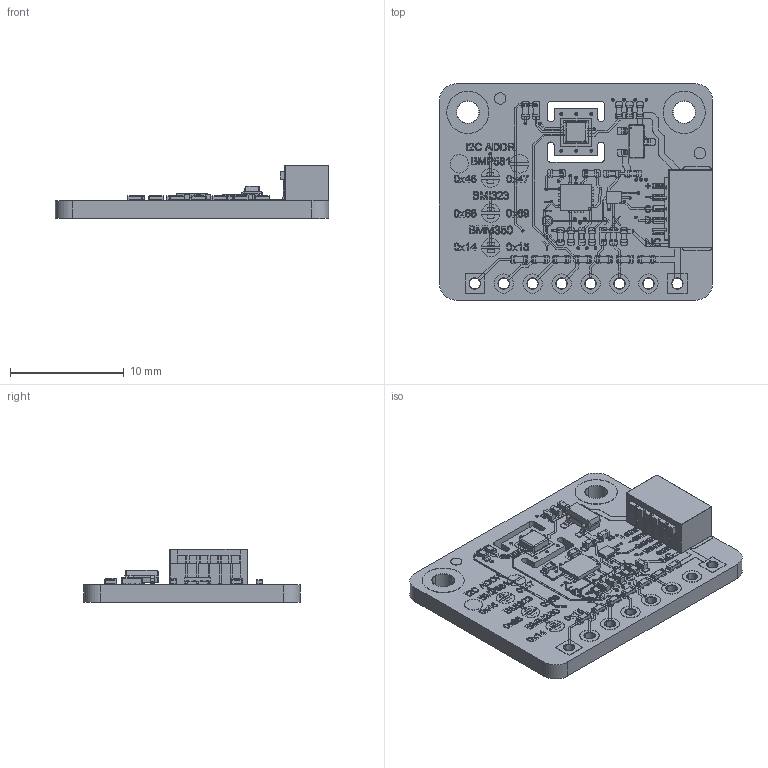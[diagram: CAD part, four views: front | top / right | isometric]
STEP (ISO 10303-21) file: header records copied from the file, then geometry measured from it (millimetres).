
FILE_DESCRIPTION(/* description */ (''),/* implementation_level */ '2;1');
FILE_NAME(/* name */ 'SEN0697',/* time_stamp */ '2026-03-20T13:50:01+08:00',/* author */ (''),/* organization */ (''),/* preprocessor_version */ 'ST-DEVELOPER v19.2',/* originating_system */ 'Rhino 8.0',/* authorisation */ '');
FILE_SCHEMA (('CONFIG_CONTROL_DESIGN'));
Products named in the file (1): Document
Bounding box: 24 x 19 x 4.74 mm (x, y, z)
Volume: 679.7 mm3; surface area: 1978.4 mm2
Topology: 428 solids, 429 shells, 5056 faces, 12355 edges, 8181 vertices
Faces by surface type: plane 3472, cylinder 1226, bspline 358
Entity records: 155635 total; most frequent: CARTESIAN_POINT 57344, ORIENTED_EDGE 24692, EDGE_CURVE 12355, B_SPLINE_CURVE_WITH_KNOTS 9657, DIRECTION 9302, VERTEX_POINT 8181, AXIS2_PLACEMENT_3D 6988, EDGE_LOOP 5478
